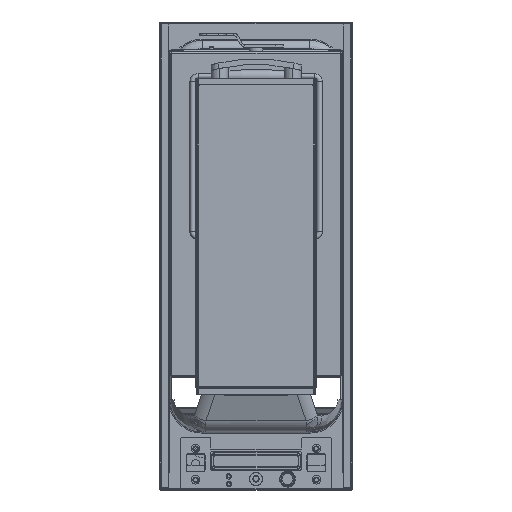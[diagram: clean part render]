
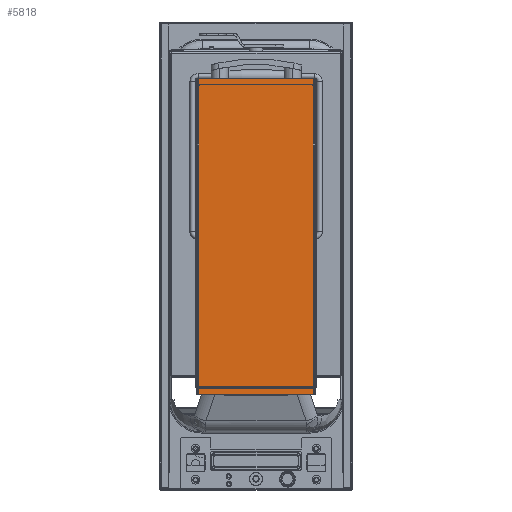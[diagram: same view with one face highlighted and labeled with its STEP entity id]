
A CAD part, front view. The second image highlights one B-rep face of the part: STEP entity #5818.
In plain terms, the highlighted planar face has unit normal (0, -1, 0).
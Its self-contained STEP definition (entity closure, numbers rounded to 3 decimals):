
#4129 = ORIENTED_EDGE ( 'NONE', *, *, #17273, .F. ) ;
#5818 = ADVANCED_FACE ( 'NONE', ( #29338 ), #19852, .F. ) ;
#5999 = CARTESIAN_POINT ( 'NONE',  ( 73.5, -729., -478.1 ) ) ;
#7511 = CARTESIAN_POINT ( 'NONE',  ( 73.5, -729., -478.1 ) ) ;
#10481 = DIRECTION ( 'NONE',  ( -1., 0., 0. ) ) ;
#11113 = EDGE_CURVE ( 'NONE', #19220, #26557, #32681, .T. ) ;
#11908 = DIRECTION ( 'NONE',  ( 0., 1., 0. ) ) ;
#12396 = CARTESIAN_POINT ( 'NONE',  ( -73.5, -729., -478.1 ) ) ;
#13170 = LINE ( 'NONE', #36302, #28414 ) ;
#13841 = CARTESIAN_POINT ( 'NONE',  ( -73.5, -729., -73.1 ) ) ;
#14891 = EDGE_LOOP ( 'NONE', ( #36942, #4129, #25095, #18319 ) ) ;
#16832 = DIRECTION ( 'NONE',  ( 0., 0., 1. ) ) ;
#16882 = VERTEX_POINT ( 'NONE', #13841 ) ;
#17273 = EDGE_CURVE ( 'NONE', #26557, #16882, #30116, .T. ) ;
#18319 = ORIENTED_EDGE ( 'NONE', *, *, #36630, .T. ) ;
#18955 = VECTOR ( 'NONE', #27286, 1000. ) ;
#19220 = VERTEX_POINT ( 'NONE', #29154 ) ;
#19852 = PLANE ( 'NONE',  #27072 ) ;
#21610 = DIRECTION ( 'NONE',  ( -1., 0., 0. ) ) ;
#23028 = DIRECTION ( 'NONE',  ( 0., 0., -1. ) ) ;
#23699 = EDGE_CURVE ( 'NONE', #35425, #16882, #13170, .T. ) ;
#25095 = ORIENTED_EDGE ( 'NONE', *, *, #11113, .F. ) ;
#26557 = VERTEX_POINT ( 'NONE', #33858 ) ;
#27067 = VECTOR ( 'NONE', #16832, 1000. ) ;
#27072 = AXIS2_PLACEMENT_3D ( 'NONE', #5999, #11908, #23028 ) ;
#27265 = CARTESIAN_POINT ( 'NONE',  ( 73.5, -729., -478.1 ) ) ;
#27286 = DIRECTION ( 'NONE',  ( 0., 0., 1. ) ) ;
#28414 = VECTOR ( 'NONE', #10481, 1000. ) ;
#29154 = CARTESIAN_POINT ( 'NONE',  ( 73.5, -729., -478.1 ) ) ;
#29338 = FACE_OUTER_BOUND ( 'NONE', #14891, .T. ) ;
#30116 = LINE ( 'NONE', #12396, #18955 ) ;
#31305 = LINE ( 'NONE', #7511, #27067 ) ;
#32681 = LINE ( 'NONE', #27265, #32762 ) ;
#32762 = VECTOR ( 'NONE', #21610, 1000. ) ;
#33858 = CARTESIAN_POINT ( 'NONE',  ( -73.5, -729., -478.1 ) ) ;
#35425 = VERTEX_POINT ( 'NONE', #35768 ) ;
#35768 = CARTESIAN_POINT ( 'NONE',  ( 73.5, -729., -73.1 ) ) ;
#36302 = CARTESIAN_POINT ( 'NONE',  ( 73.5, -729., -73.1 ) ) ;
#36630 = EDGE_CURVE ( 'NONE', #19220, #35425, #31305, .T. ) ;
#36942 = ORIENTED_EDGE ( 'NONE', *, *, #23699, .T. ) ;
